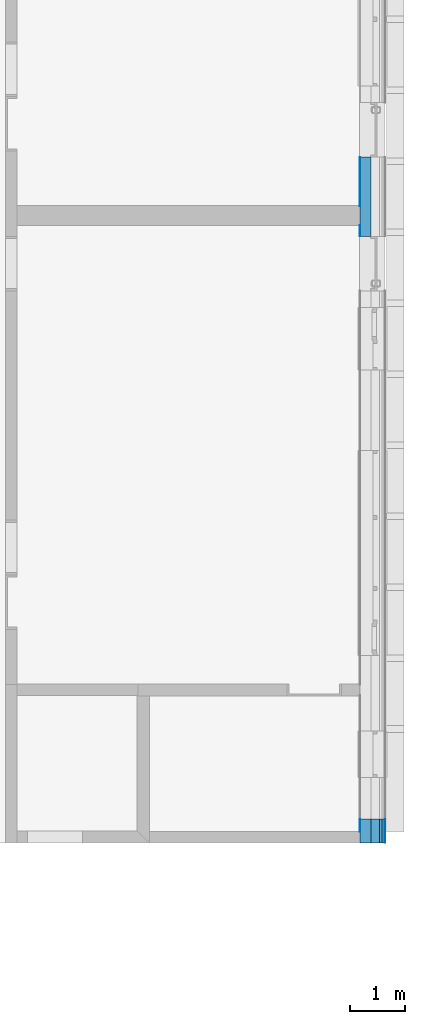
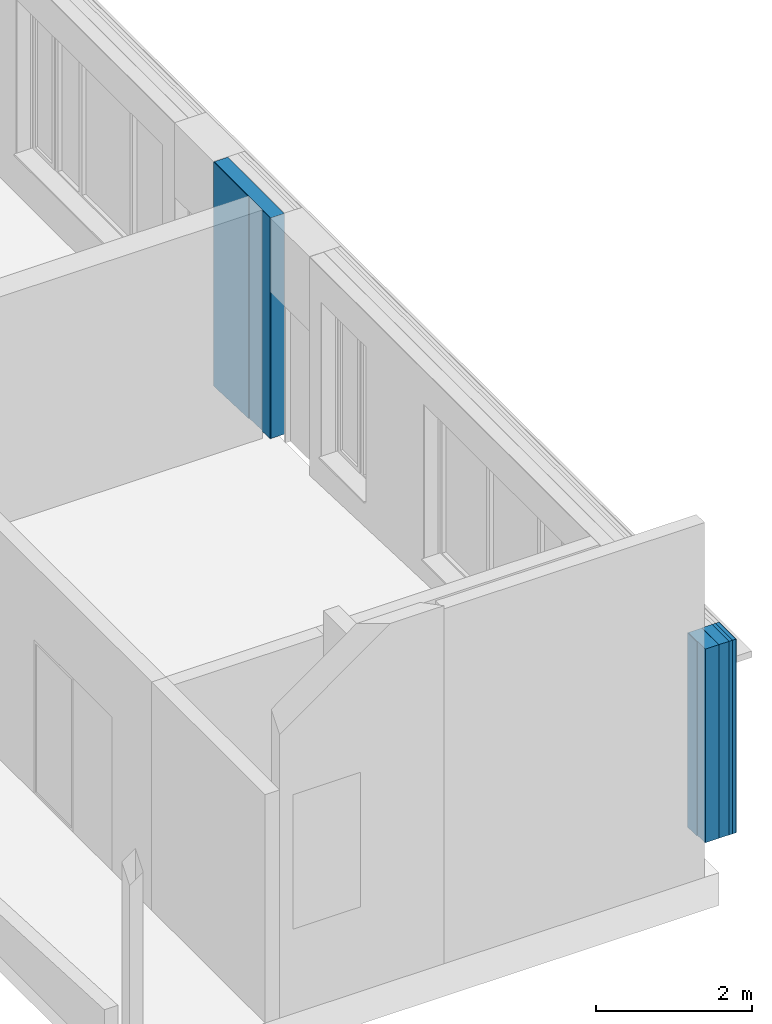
# One storey, part 36 of 65: 8 building element parts, 2 elements without a shape of their own.
"""IFC2X3 building model written with IfcOpenShell, lengths in millimetres."""

import ifcopenshell
import ifcopenshell.guid

model = None  # the IFC model being written
_history = None  # IfcOwnerHistory: only IFC2X3 demands one
_inside = {}  # id of a spatial element -> (the spatial element, [elements in it])
_under = {}  # id of a project, library or spatial element -> (it, [spatial elements below it])
_declared = {}  # id of a project -> (the project, [libraries it declares])
_typed = {}  # id of a type object -> (the type object, [elements of that type])
_made_of = {}  # id of a material, layer set ... -> (it, [elements and type objects made of it])


def new_model(schema):
    """Start an empty IFC model of exactly this schema.

    Asked for "IFC4X3", IfcOpenShell would pick the latest addendum, in which some entities
    have other attributes; the version numbers below select the first issue.
    IFC2X3 requires an IfcOwnerHistory on every rooted entity: one is made here for all.
    """
    global model, _history
    if schema == "IFC4X3":
        model = ifcopenshell.file(schema_version=(4, 3, 0, 0))
    else:
        model = ifcopenshell.file(schema=schema)
    _inside.clear()
    _under.clear()
    _declared.clear()
    _typed.clear()
    _made_of.clear()
    _history = None
    if model.schema == "IFC2X3":
        org = make("IfcOrganization", Name="unknown")
        user = make(
            "IfcPersonAndOrganization",
            ThePerson=make("IfcPerson", FamilyName="unknown"),
            TheOrganization=org,
        )
        app = make(
            "IfcApplication",
            ApplicationDeveloper=org,
            Version="unknown",
            ApplicationFullName="unknown",
            ApplicationIdentifier="unknown",
        )
        _history = make(
            "IfcOwnerHistory",
            OwningUser=user,
            OwningApplication=app,
            ChangeAction="ADDED",
            CreationDate=0,
        )
    return model


def make(cls, **values):
    """One entity of the class cls with the attributes given. An attribute that is None is left unset."""
    return model.create_entity(
        cls, **{name: value for name, value in values.items() if value is not None}
    )


def entity(cls, *values):
    """Any entity or typed value of the class cls, its attributes in the order of the schema. None: left unset."""
    e = model.create_entity(cls)
    for i, value in enumerate(values):
        if value is not None:
            e[i] = value
    return e


def rooted(cls, **values):
    """An entity with a GlobalId (a new one), such as an element, a storey or a relation."""
    return make(cls, GlobalId=ifcopenshell.guid.new(), OwnerHistory=_history, **values)


def si_unit(unit_type, name, prefix=None):
    """IfcSIUnit, for example si_unit("LENGTHUNIT", "METRE", prefix="MILLI")."""
    return make("IfcSIUnit", UnitType=unit_type, Prefix=prefix, Name=name)


def converted_unit(unit_type, name, factor, base, dimensions=None, offset=None):
    """IfcConversionBasedUnit, such as the inch: factor (a typed value) times the base unit."""
    return make(
        "IfcConversionBasedUnit"
        if offset is None
        else "IfcConversionBasedUnitWithOffset",
        ConversionOffset=offset,
        Dimensions=None
        if dimensions is None
        else entity("IfcDimensionalExponents", *dimensions),
        UnitType=unit_type,
        Name=name,
        ConversionFactor=make(
            "IfcMeasureWithUnit", ValueComponent=factor, UnitComponent=base
        ),
    )


def derived_unit(unit_type, elements):
    """IfcDerivedUnit: a product of units, each with its exponent."""
    return make(
        "IfcDerivedUnit",
        Elements=[
            make("IfcDerivedUnitElement", Unit=unit, Exponent=power)
            for unit, power in elements
        ],
        UnitType=unit_type,
    )


def money_unit(currency):
    """IfcMonetaryUnit."""
    return make("IfcMonetaryUnit", Currency=currency)


def assignment(units):
    """IfcUnitAssignment: the units of a project."""
    return None if units is None else make("IfcUnitAssignment", Units=units)


def point(xyz):
    """IfcCartesianPoint."""
    return None if xyz is None else make("IfcCartesianPoint", Coordinates=xyz)


def direction(xyz):
    """IfcDirection."""
    return None if xyz is None else make("IfcDirection", DirectionRatios=xyz)


def frame(location, z_axis=None, x_axis=None):
    """IfcAxis2Placement3D, a coordinate frame: its origin and axes. An axis left out is left unset."""
    return make(
        "IfcAxis2Placement3D",
        Location=point(location),
        Axis=direction(z_axis),
        RefDirection=direction(x_axis),
    )


def origin_with_axes():
    """The frame at (0, 0, 0) with the z axis (0, 0, 1) and the x axis (1, 0, 0) written out."""
    return frame((0.0, 0.0, 0.0), z_axis=(0.0, 0.0, 1.0), x_axis=(1.0, 0.0, 0.0))


def place(relative_to, where):
    """IfcLocalPlacement: puts the frame where relative to a parent placement (None: the world)."""
    return make(
        "IfcLocalPlacement", PlacementRelTo=relative_to, RelativePlacement=where
    )


def context(
    kind, dimensions, precision=None, world=None, true_north=None, identifier=None
):
    """IfcGeometricRepresentationContext, for example the 3D "Model" context."""
    return make(
        "IfcGeometricRepresentationContext",
        ContextIdentifier=identifier,
        ContextType=kind,
        CoordinateSpaceDimension=dimensions,
        Precision=precision,
        WorldCoordinateSystem=world,
        TrueNorth=true_north,
    )


def subcontext(parent, identifier, kind, view, scale=None):
    """IfcGeometricRepresentationSubContext, for example "Body" below "Model"."""
    return make(
        "IfcGeometricRepresentationSubContext",
        ContextIdentifier=identifier,
        ContextType=kind,
        ParentContext=parent,
        TargetScale=scale,
        TargetView=view,
    )


def project(units=None, contexts=None):
    """IfcProject with its units and contexts."""
    return rooted(
        "IfcProject",
        Name="project",
        RepresentationContexts=contexts,
        UnitsInContext=assignment(units),
    )


def spatial(cls, under=None, at=None, **own):
    """A site, building, storey or space (cls), placed at a placement, below another one or the project."""
    s = rooted(cls, ObjectPlacement=at, **own)
    if under is not None:
        _under.setdefault(under.id(), (under, []))[1].append(s)
    return s


def polyline(points):
    """IfcPolyline through the points."""
    return make("IfcPolyline", Points=[point(p) for p in points])


def outline(outer, holes=None, kind="AREA"):
    """IfcArbitraryClosedProfileDef: a profile drawn as a closed curve; with holes, ...WithVoids."""
    if holes is None:
        return make("IfcArbitraryClosedProfileDef", ProfileType=kind, OuterCurve=outer)
    return make(
        "IfcArbitraryProfileDefWithVoids",
        ProfileType=kind,
        OuterCurve=outer,
        InnerCurves=holes,
    )


def extrude(swept, where, along, depth):
    """IfcExtrudedAreaSolid: the profile swept, set in the frame where, extruded along a direction by depth."""
    return make(
        "IfcExtrudedAreaSolid",
        SweptArea=swept,
        Position=where,
        ExtrudedDirection=direction(along),
        Depth=depth,
    )


def boolean(op, a, b):
    """IfcBooleanResult of two solids."""
    return make("IfcBooleanResult", Operator=op, FirstOperand=a, SecondOperand=b)


def faces_of(points, faces, orient=None, outer=None):
    """IfcFace entities. A face is a list of loops; a loop is a list of indices into points, from 0.

    orient and outer hold one flag for each loop. By default every Orientation is true, the
    first loop of a face is its IfcFaceOuterBound and the others are IfcFaceBound.
    """
    made = []
    for i, loops in enumerate(faces):
        bounds = []
        for j, loop in enumerate(loops):
            is_outer = j == 0 if outer is None else outer[i][j]
            bounds.append(
                make(
                    "IfcFaceOuterBound" if is_outer else "IfcFaceBound",
                    Bound=make("IfcPolyLoop", Polygon=[points[k] for k in loop]),
                    Orientation=True if orient is None else orient[i][j],
                )
            )
        made.append(make("IfcFace", Bounds=bounds))
    return made


def faceted_brep(points, faces, orient=None, outer=None, voids=None):
    """IfcFacetedBrep: a solid bounded by flat faces; with voids (closed shells), ...WithVoids."""
    shared = [point(p) for p in points]
    hull = make("IfcClosedShell", CfsFaces=faces_of(shared, faces, orient, outer))
    if voids is None:
        return make("IfcFacetedBrep", Outer=hull)
    return make(
        "IfcFacetedBrepWithVoids",
        Outer=hull,
        Voids=[
            make(cls, CfsFaces=faces_of(shared, fs, o, b)) for cls, fs, o, b in voids
        ],
    )


def shape(context_of_items, identifier, shape_type, items):
    """IfcShapeRepresentation: the items that make up one representation, for example the "Body"."""
    return make(
        "IfcShapeRepresentation",
        ContextOfItems=context_of_items,
        RepresentationIdentifier=identifier,
        RepresentationType=shape_type,
        Items=items,
    )


def material(Name=None, Category=None):
    """IfcMaterial."""
    return make("IfcMaterial", Name=Name, Category=Category)


def made_of(thing, what):
    """Note that an element or type object is made of a material, layer set ...; save() writes the relation."""
    if what is not None:
        _made_of.setdefault(what.id(), (what, []))[1].append(thing)
    return thing


def type_object(cls, material=None, **own):
    """A type object (cls), such as IfcWallType, which elements share."""
    return made_of(rooted(cls, **own), material)


def element(
    cls,
    number,
    at=None,
    inside=None,
    cuts=None,
    type_object=None,
    material=None,
    context=None,
    identifier="Body",
    shape_type=None,
    held_by="IfcProductDefinitionShape",
    body=None,
    shapes=None,
    **own,
):
    """One element of the class cls, such as IfcWall. Its Tag is "e" and its number.

    at: its placement. inside: the storey or other place that contains it. cuts: it is an
    opening in that element (IfcRelVoidsElement). A single representation is given by context,
    identifier, shape_type and body (its items); several are given by shapes. held_by: the class
    of the entity that holds the representations. save() writes the other relations.
    """
    e = rooted(cls, Tag="e%d" % number, ObjectPlacement=at, **own)
    if body is not None:
        shapes = [shape(context, identifier, shape_type, body)]
    if shapes is not None:
        e.Representation = make(held_by, Representations=shapes)
    if inside is not None:
        _inside.setdefault(inside.id(), (inside, []))[1].append(e)
    if cuts is not None:
        rooted(
            "IfcRelVoidsElement", RelatingBuildingElement=cuts, RelatedOpeningElement=e
        )
    if type_object is not None:
        _typed.setdefault(type_object.id(), (type_object, []))[1].append(e)
    return made_of(e, material)


def aggregate(whole, parts):
    """IfcRelAggregates: a whole, such as a stair, and the parts it consists of."""
    return rooted("IfcRelAggregates", RelatingObject=whole, RelatedObjects=parts)


def save(model, path):
    """Write the relations noted so far, then the file.

    IfcRelAggregates (storeys below a building ...), IfcRelContainedInSpatialStructure (elements
    in a storey), IfcRelDefinesByType, IfcRelAssociatesMaterial and IfcRelDeclares: one each for
    every whole, place, type object, material and project.
    """
    for whole, parts in _under.values():
        aggregate(whole, parts)
    for where, things in _inside.values():
        rooted(
            "IfcRelContainedInSpatialStructure",
            RelatedElements=things,
            RelatingStructure=where,
        )
    for kind, things in _typed.values():
        rooted("IfcRelDefinesByType", RelatedObjects=things, RelatingType=kind)
    for what, things in _made_of.values():
        rooted("IfcRelAssociatesMaterial", RelatedObjects=things, RelatingMaterial=what)
    for by, libraries in _declared.values():
        rooted("IfcRelDeclares", RelatingContext=by, RelatedDefinitions=libraries)
    model.write(path)


model = new_model("IFC2X3")

# Units and contexts
model_context = context("Model", 3, precision=0.01, world=origin_with_axes(), true_north=direction((0.0, 1.0)))
body_context = subcontext(model_context, "Body", "Model", "MODEL_VIEW")
ifc_project = project(units=[si_unit("LENGTHUNIT", "METRE", prefix="MILLI"), si_unit("AREAUNIT", "SQUARE_METRE"), si_unit("VOLUMEUNIT", "CUBIC_METRE"), converted_unit("PLANEANGLEUNIT", "DEGREE", entity("IfcPlaneAngleMeasure", 0.0174532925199), si_unit("PLANEANGLEUNIT", "RADIAN"), dimensions=[0, 0, 0, 0, 0, 0, 0]), si_unit("SOLIDANGLEUNIT", "STERADIAN"), money_unit("EUR"), converted_unit("TIMEUNIT", "Year", entity("IfcTimeMeasure", 31556926.0), si_unit("TIMEUNIT", "SECOND"), dimensions=[0, 0, 1, 0, 0, 0, 0]), si_unit("MASSUNIT", "GRAM", prefix="KILO"), si_unit("THERMODYNAMICTEMPERATUREUNIT", "DEGREE_CELSIUS"), si_unit("LUMINOUSINTENSITYUNIT", "LUMEN"), si_unit("ENERGYUNIT", "JOULE", prefix="MEGA"), derived_unit("THERMALCONDUCTANCEUNIT", [(si_unit("POWERUNIT", "WATT"), 1), (si_unit("LENGTHUNIT", "METRE"), -1), (si_unit("THERMODYNAMICTEMPERATUREUNIT", "KELVIN"), -1)]), derived_unit("SPECIFICHEATCAPACITYUNIT", [(si_unit("ENERGYUNIT", "JOULE"), 1), (si_unit("MASSUNIT", "GRAM", prefix="KILO"), -1), (si_unit("THERMODYNAMICTEMPERATUREUNIT", "KELVIN"), -1)]), derived_unit("MASSDENSITYUNIT", [(si_unit("MASSUNIT", "GRAM", prefix="KILO"), 1), (si_unit("VOLUMEUNIT", "CUBIC_METRE"), -1)])], contexts=[model_context])

# Site, building, storey
site_placement = place(None, origin_with_axes())
site = spatial("IfcSite", under=ifc_project, at=site_placement, Name="Puškini 31, Narva", CompositionType="ELEMENT")
building_placement = place(site_placement, origin_with_axes())
building = spatial("IfcBuilding", under=site, at=building_placement, Name="Narva Riigigümnaasium", CompositionType="ELEMENT")
storey_placement = place(building_placement, frame((0.0, 0.0, -1320.0), z_axis=(0.0, 0.0, 1.0), x_axis=(1.0, 0.0, 0.0)))
storey = spatial("IfcBuildingStorey", under=building, at=storey_placement, Name="1.korrus -1.32", CompositionType="ELEMENT", Elevation=-1320.0)

# Wall, building element parts
wall_type = type_object("IfcWallType", Name="G-VS-01 468", PredefinedType="NOTDEFINED")
wall_1_placement = place(storey_placement, frame((54000.000001, 171560.151272, -1980.0), z_axis=(0.0, 0.0, 1.0), x_axis=(0.0, -1.0, 0.0)))
wall_1 = element("IfcWall", 1, at=wall_1_placement, inside=storey, type_object=wall_type, Name="Välissein")
ifc_material_1 = material(Name="Salto-siseviimistlus-seinad")
building_element_part_1_placement = place(wall_1_placement, origin_with_axes())
building_element_part_1 = element("IfcBuildingElementPart", 2, at=building_element_part_1_placement, material=ifc_material_1, Name="Salto-siseviimistlus-seinad", context=body_context, shape_type="CSG", body=[
    boolean("DIFFERENCE", boolean("DIFFERENCE", boolean("DIFFERENCE", boolean("DIFFERENCE", boolean("DIFFERENCE", boolean("DIFFERENCE", boolean("DIFFERENCE", extrude(outline(polyline([(0.0, -10.0), (1450.0, -10.0), (1450.0, 0.0), (0.0, 0.0), (0.0, -10.0)])), origin_with_axes(), (0.0, 0.0, 1.0), 5539.82248474), faceted_brep([(900.151287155, 0.0, 2070.15306783), (900.151287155, 0.0, 5535.0), (0.0, 0.0, 5535.0), (0.0, 0.0, 5539.82248474), (1450.0, 0.0, 5539.82248474), (1450.0, 0.0, 5535.0), (1245.15128715, 0.0, 5535.0), (1245.15128715, 0.0, 2083.35957896), (1450.0, 0.0, 2091.20113492), (1450.0, 0.0, 0.0), (0.0, 0.0, 0.0), (0.0, 0.0, 2035.69550845), (900.151287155, -10.0, 2070.15306783), (900.151287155, -10.0, 5535.0), (0.0, -10.0, 5535.0), (0.0, -10.0, 5539.82248474), (1450.0, -10.0, 5539.82248474), (1450.0, -10.0, 5535.0), (1245.15128715, -10.0, 5535.0), (1245.15128715, -10.0, 2083.35957896), (1450.0, -10.0, 2091.20113492), (1450.0, -10.0, 0.0), (0.0, -10.0, 0.0), (0.0, -10.0, 2035.69550845)], [[[0, 1, 2, 3, 4, 5, 6, 7, 8, 9, 10, 11]], [[1, 0, 12, 13]], [[14, 2, 1, 13]], [[2, 14, 15, 3]], [[3, 15, 16, 4]], [[17, 5, 4, 16]], [[5, 17, 18, 6]], [[7, 6, 18, 19]], [[8, 7, 19, 20]], [[8, 20, 21, 9]], [[21, 22, 10, 9]], [[23, 11, 10, 22]], [[0, 11, 23, 12]], [[12, 23, 22, 21, 20, 19, 18, 17, 16, 15, 14, 13]]])), faceted_brep([(0.0, 0.0, 2035.69550845), (0.0, 199.99999771, 2035.69550845), (0.0, 200.0, 0.0), (0.0, 0.0, 0.0), (1450.0, 199.999997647, 2091.20113492), (900.151287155, 0.0, 2070.15306783), (1245.15128715, 0.0, 2083.35957896), (1450.0, 0.0, 2091.20113492), (1450.0, 200.0, 0.0), (1450.0, 0.0, 0.0)], [[[0, 1, 2, 3]], [[4, 1, 0, 5, 6, 7]], [[1, 4, 8, 2]], [[9, 3, 2, 8]], [[5, 0, 3, 9, 7, 6]], [[4, 7, 9, 8]]])), faceted_brep([(1450.0, 199.999993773, 5535.0), (0.0, 199.999993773, 5535.0), (0.0, 200.0, 5539.82248474), (1450.0, 200.0, 5539.82248474), (0.0, 0.0, 5535.0), (1450.0, 0.0, 5535.0), (0.0, 0.0, 5539.82248474), (1450.0, 0.0, 5539.82248474)], [[[0, 1, 2, 3]], [[4, 1, 0, 5]], [[1, 4, 6, 2]], [[2, 6, 7, 3]], [[5, 0, 3, 7]], [[5, 7, 6, 4]]])), faceted_brep([(0.0, 199.99999771, 2035.69550845), (0.0, 350.0, 2035.69550845), (0.0, 350.0, 0.0), (0.0, 200.0, 0.0), (1450.0, 350.0, 2091.20113492), (1450.0, 199.999997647, 2091.20113492), (1450.0, 350.0, 0.0), (1450.0, 200.0, 0.0)], [[[0, 1, 2, 3]], [[4, 1, 0, 5]], [[1, 4, 6, 2]], [[7, 3, 2, 6]], [[5, 0, 3, 7]], [[4, 5, 7, 6]]])), faceted_brep([(0.0, 350.0, 2035.69550845), (0.0, 400.0, 2035.69550845), (0.0, 400.0, 0.0), (0.0, 350.0, 0.0), (1450.0, 400.0, 2091.20113492), (1450.0, 350.0, 2091.20113492), (1450.0, 400.0, 0.0), (1450.0, 350.0, 0.0)], [[[0, 1, 2, 3]], [[4, 1, 0, 5]], [[1, 4, 6, 2]], [[7, 3, 2, 6]], [[5, 0, 3, 7]], [[4, 5, 7, 6]]])), faceted_brep([(0.0, 400.0, 2035.69550845), (0.0, 450.0, 2035.69550845), (0.0, 450.0, 0.0), (0.0, 400.0, 0.0), (1450.0, 450.0, 2091.20113492), (1450.0, 400.0, 2091.20113492), (1450.0, 450.0, 0.0), (1450.0, 400.0, 0.0)], [[[0, 1, 2, 3]], [[4, 1, 0, 5]], [[1, 4, 6, 2]], [[7, 3, 2, 6]], [[5, 0, 3, 7]], [[4, 5, 7, 6]]])), faceted_brep([(0.0, 450.0, 2035.69550845), (0.0, 458.0, 2035.69550845), (0.0, 458.0, 0.0), (0.0, 450.0, 0.0), (1450.0, 458.0, 2091.20113492), (1450.0, 450.0, 2091.20113492), (1450.0, 458.0, 0.0), (1450.0, 450.0, 0.0)], [[[0, 1, 2, 3]], [[4, 1, 0, 5]], [[1, 4, 6, 2]], [[7, 3, 2, 6]], [[5, 0, 3, 7]], [[4, 5, 7, 6]]])),
])
ifc_material_2 = material(Name="Betoon element")
building_element_part_2_placement = place(wall_1_placement, origin_with_axes())
building_element_part_2 = element("IfcBuildingElementPart", 3, at=building_element_part_2_placement, material=ifc_material_2, Name="Betoon element", context=body_context, shape_type="CSG", body=[
    boolean("DIFFERENCE", boolean("DIFFERENCE", boolean("DIFFERENCE", boolean("DIFFERENCE", boolean("DIFFERENCE", boolean("DIFFERENCE", boolean("DIFFERENCE", extrude(outline(polyline([(0.0, 0.0), (1450.0, 0.0), (1450.0, 200.0), (0.0, 200.0), (0.0, 0.0)])), origin_with_axes(), (0.0, 0.0, 1.0), 5539.82248474), faceted_brep([(900.151287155, 0.0, 2070.15306783), (900.151287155, 0.0, 5535.0), (0.0, 0.0, 5535.0), (0.0, 0.0, 5539.82248474), (1450.0, 0.0, 5539.82248474), (1450.0, 0.0, 5535.0), (1245.15128715, 0.0, 5535.0), (1245.15128715, 0.0, 2083.35957896), (1450.0, 0.0, 2091.20113492), (1450.0, 0.0, 0.0), (0.0, 0.0, 0.0), (0.0, 0.0, 2035.69550845), (900.151287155, -10.0, 2070.15306783), (900.151287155, -10.0, 5535.0), (0.0, -10.0, 5535.0), (0.0, -10.0, 5539.82248474), (1450.0, -10.0, 5539.82248474), (1450.0, -10.0, 5535.0), (1245.15128715, -10.0, 5535.0), (1245.15128715, -10.0, 2083.35957896), (1450.0, -10.0, 2091.20113492), (1450.0, -10.0, 0.0), (0.0, -10.0, 0.0), (0.0, -10.0, 2035.69550845)], [[[0, 1, 2, 3, 4, 5, 6, 7, 8, 9, 10, 11]], [[1, 0, 12, 13]], [[14, 2, 1, 13]], [[2, 14, 15, 3]], [[3, 15, 16, 4]], [[17, 5, 4, 16]], [[5, 17, 18, 6]], [[7, 6, 18, 19]], [[8, 7, 19, 20]], [[8, 20, 21, 9]], [[21, 22, 10, 9]], [[23, 11, 10, 22]], [[0, 11, 23, 12]], [[12, 23, 22, 21, 20, 19, 18, 17, 16, 15, 14, 13]]])), faceted_brep([(0.0, 0.0, 2035.69550845), (0.0, 199.99999771, 2035.69550845), (0.0, 200.0, 0.0), (0.0, 0.0, 0.0), (1450.0, 199.999997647, 2091.20113492), (900.151287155, 0.0, 2070.15306783), (1245.15128715, 0.0, 2083.35957896), (1450.0, 0.0, 2091.20113492), (1450.0, 200.0, 0.0), (1450.0, 0.0, 0.0)], [[[0, 1, 2, 3]], [[4, 1, 0, 5, 6, 7]], [[1, 4, 8, 2]], [[9, 3, 2, 8]], [[5, 0, 3, 9, 7, 6]], [[4, 7, 9, 8]]])), faceted_brep([(1450.0, 199.999993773, 5535.0), (0.0, 199.999993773, 5535.0), (0.0, 200.0, 5539.82248474), (1450.0, 200.0, 5539.82248474), (0.0, 0.0, 5535.0), (1450.0, 0.0, 5535.0), (0.0, 0.0, 5539.82248474), (1450.0, 0.0, 5539.82248474)], [[[0, 1, 2, 3]], [[4, 1, 0, 5]], [[1, 4, 6, 2]], [[2, 6, 7, 3]], [[5, 0, 3, 7]], [[5, 7, 6, 4]]])), faceted_brep([(0.0, 199.99999771, 2035.69550845), (0.0, 350.0, 2035.69550845), (0.0, 350.0, 0.0), (0.0, 200.0, 0.0), (1450.0, 350.0, 2091.20113492), (1450.0, 199.999997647, 2091.20113492), (1450.0, 350.0, 0.0), (1450.0, 200.0, 0.0)], [[[0, 1, 2, 3]], [[4, 1, 0, 5]], [[1, 4, 6, 2]], [[7, 3, 2, 6]], [[5, 0, 3, 7]], [[4, 5, 7, 6]]])), faceted_brep([(0.0, 350.0, 2035.69550845), (0.0, 400.0, 2035.69550845), (0.0, 400.0, 0.0), (0.0, 350.0, 0.0), (1450.0, 400.0, 2091.20113492), (1450.0, 350.0, 2091.20113492), (1450.0, 400.0, 0.0), (1450.0, 350.0, 0.0)], [[[0, 1, 2, 3]], [[4, 1, 0, 5]], [[1, 4, 6, 2]], [[7, 3, 2, 6]], [[5, 0, 3, 7]], [[4, 5, 7, 6]]])), faceted_brep([(0.0, 400.0, 2035.69550845), (0.0, 450.0, 2035.69550845), (0.0, 450.0, 0.0), (0.0, 400.0, 0.0), (1450.0, 450.0, 2091.20113492), (1450.0, 400.0, 2091.20113492), (1450.0, 450.0, 0.0), (1450.0, 400.0, 0.0)], [[[0, 1, 2, 3]], [[4, 1, 0, 5]], [[1, 4, 6, 2]], [[7, 3, 2, 6]], [[5, 0, 3, 7]], [[4, 5, 7, 6]]])), faceted_brep([(0.0, 450.0, 2035.69550845), (0.0, 458.0, 2035.69550845), (0.0, 458.0, 0.0), (0.0, 450.0, 0.0), (1450.0, 458.0, 2091.20113492), (1450.0, 450.0, 2091.20113492), (1450.0, 458.0, 0.0), (1450.0, 450.0, 0.0)], [[[0, 1, 2, 3]], [[4, 1, 0, 5]], [[1, 4, 6, 2]], [[7, 3, 2, 6]], [[5, 0, 3, 7]], [[4, 5, 7, 6]]])),
])
aggregate(wall_1, [building_element_part_1, building_element_part_2])

wall_2_placement = place(storey_placement, frame((54000.000001, 159436.567147, -1980.0), z_axis=(0.0, 0.0, 1.0), x_axis=(0.0, -1.0, 0.0)))
wall_2 = element("IfcWall", 4, at=wall_2_placement, inside=storey, type_object=wall_type, Name="Välissein")
building_element_part_3_placement = place(wall_2_placement, origin_with_axes())
building_element_part_3 = element("IfcBuildingElementPart", 5, at=building_element_part_3_placement, material=ifc_material_1, Name="Salto-siseviimistlus-seinad", context=body_context, shape_type="CSG", body=[
    boolean("DIFFERENCE", boolean("DIFFERENCE", boolean("DIFFERENCE", boolean("DIFFERENCE", boolean("DIFFERENCE", boolean("DIFFERENCE", boolean("DIFFERENCE", extrude(outline(polyline([(0.0, -10.0), (436.567147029, -10.0), (436.567147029, 0.0), (0.0, 0.0), (0.0, -10.0)])), origin_with_axes(), (0.0, 0.0, 1.0), 5539.82248474), faceted_brep([(236.567146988, 0.0, 2508.8389151), (236.567146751, 0.0, 5535.0), (0.0, 0.0, 5535.0), (0.0, 0.0, 5539.82248474), (436.567147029, 0.0, 5539.82248474), (436.567147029, 0.0, 0.0), (0.0, 0.0, 0.0), (0.0, 0.0, 2499.78318565), (236.567146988, -10.0, 2508.8389151), (236.567146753, -10.0, 5535.0), (0.0, -10.0, 5535.0), (0.0, -10.0, 5539.82248474), (436.567147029, -10.0, 5539.82248474), (436.567147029, -10.0, 0.0), (0.0, -10.0, 0.0), (0.0, -10.0, 2499.78318565)], [[[0, 1, 2, 3, 4, 5, 6, 7]], [[1, 0, 8, 9]], [[10, 2, 1, 9]], [[2, 10, 11, 3]], [[3, 11, 12, 4]], [[12, 13, 5, 4]], [[13, 14, 6, 5]], [[15, 7, 6, 14]], [[0, 7, 15, 8]], [[8, 15, 14, 13, 12, 11, 10, 9]]])), faceted_brep([(0.0, 0.0, 2499.78318565), (0.0, 199.999997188, 2499.78318565), (0.0, 200.0, 0.0), (0.0, 0.0, 0.0), (436.567147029, 200.0, 2516.49486358), (236.567146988, 0.0, 2508.8389151), (436.56714655, 0.0, 2516.49486356), (436.567147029, 200.0, 0.0), (436.567147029, 0.0, 0.0)], [[[0, 1, 2, 3]], [[4, 1, 0, 5, 6]], [[1, 4, 7, 2]], [[8, 3, 2, 7]], [[5, 0, 3, 8, 6]], [[4, 6, 8, 7]]])), faceted_brep([(236.567146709, 199.999993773, 5539.82248474), (236.567146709, 199.999993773, 5535.0), (0.0, 199.999993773, 5535.0), (0.0, 200.0, 5539.82248474), (236.567146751, 0.0, 5539.82248474), (236.567146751, 0.0, 5535.0), (0.0, 0.0, 5535.0), (0.0, 0.0, 5539.82248474)], [[[0, 1, 2, 3]], [[1, 0, 4, 5]], [[6, 2, 1, 5]], [[2, 6, 7, 3]], [[4, 0, 3, 7]], [[5, 4, 7, 6]]])), faceted_brep([(0.0, 199.999997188, 2499.78318565), (0.0, 350.0, 2499.78318565), (0.0, 350.0, 0.0), (0.0, 200.0, 0.0), (436.567147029, 350.0, 2516.49486358), (436.567147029, 200.0, 2516.49486358), (436.567147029, 350.0, 0.0), (436.567147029, 200.0, 0.0)], [[[0, 1, 2, 3]], [[4, 1, 0, 5]], [[1, 4, 6, 2]], [[7, 3, 2, 6]], [[5, 0, 3, 7]], [[4, 5, 7, 6]]])), faceted_brep([(0.0, 350.0, 2499.78318565), (0.0, 400.0, 2499.78318565), (0.0, 400.0, 0.0), (0.0, 350.0, 0.0), (436.567147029, 400.0, 2516.49486358), (436.567147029, 350.0, 2516.49486358), (436.567147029, 400.0, 0.0), (436.567147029, 350.0, 0.0)], [[[0, 1, 2, 3]], [[4, 1, 0, 5]], [[1, 4, 6, 2]], [[7, 3, 2, 6]], [[5, 0, 3, 7]], [[4, 5, 7, 6]]])), faceted_brep([(0.0, 400.0, 2499.78318565), (0.0, 450.0, 2499.78318565), (0.0, 450.0, 0.0), (0.0, 400.0, 0.0), (436.567147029, 450.0, 2516.49486358), (436.567147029, 400.0, 2516.49486358), (436.567147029, 450.0, 0.0), (436.567147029, 400.0, 0.0)], [[[0, 1, 2, 3]], [[4, 1, 0, 5]], [[1, 4, 6, 2]], [[7, 3, 2, 6]], [[5, 0, 3, 7]], [[4, 5, 7, 6]]])), faceted_brep([(0.0, 450.0, 2499.78318565), (0.0, 458.0, 2499.78318565), (0.0, 458.0, 0.0), (0.0, 450.0, 0.0), (436.567147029, 458.0, 2516.49486358), (436.567147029, 450.0, 2516.49486358), (436.567147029, 458.0, 0.0), (436.567147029, 450.0, 0.0)], [[[0, 1, 2, 3]], [[4, 1, 0, 5]], [[1, 4, 6, 2]], [[7, 3, 2, 6]], [[5, 0, 3, 7]], [[4, 5, 7, 6]]])),
])
building_element_part_4_placement = place(wall_2_placement, origin_with_axes())
building_element_part_4 = element("IfcBuildingElementPart", 6, at=building_element_part_4_placement, material=ifc_material_2, Name="Betoon element", context=body_context, shape_type="CSG", body=[
    boolean("DIFFERENCE", boolean("DIFFERENCE", boolean("DIFFERENCE", boolean("DIFFERENCE", boolean("DIFFERENCE", boolean("DIFFERENCE", boolean("DIFFERENCE", extrude(outline(polyline([(0.0, 0.0), (436.567147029, 0.0), (436.567147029, 200.0), (0.0, 200.0), (0.0, 0.0)])), origin_with_axes(), (0.0, 0.0, 1.0), 5539.82248474), faceted_brep([(236.567146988, 0.0, 2508.8389151), (236.567146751, 0.0, 5535.0), (0.0, 0.0, 5535.0), (0.0, 0.0, 5539.82248474), (436.567147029, 0.0, 5539.82248474), (436.567147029, 0.0, 0.0), (0.0, 0.0, 0.0), (0.0, 0.0, 2499.78318565), (236.567146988, -10.0, 2508.8389151), (236.567146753, -10.0, 5535.0), (0.0, -10.0, 5535.0), (0.0, -10.0, 5539.82248474), (436.567147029, -10.0, 5539.82248474), (436.567147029, -10.0, 0.0), (0.0, -10.0, 0.0), (0.0, -10.0, 2499.78318565)], [[[0, 1, 2, 3, 4, 5, 6, 7]], [[1, 0, 8, 9]], [[10, 2, 1, 9]], [[2, 10, 11, 3]], [[3, 11, 12, 4]], [[12, 13, 5, 4]], [[13, 14, 6, 5]], [[15, 7, 6, 14]], [[0, 7, 15, 8]], [[8, 15, 14, 13, 12, 11, 10, 9]]])), faceted_brep([(0.0, 0.0, 2499.78318565), (0.0, 199.999997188, 2499.78318565), (0.0, 200.0, 0.0), (0.0, 0.0, 0.0), (436.567147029, 200.0, 2516.49486358), (236.567146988, 0.0, 2508.8389151), (436.56714655, 0.0, 2516.49486356), (436.567147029, 200.0, 0.0), (436.567147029, 0.0, 0.0)], [[[0, 1, 2, 3]], [[4, 1, 0, 5, 6]], [[1, 4, 7, 2]], [[8, 3, 2, 7]], [[5, 0, 3, 8, 6]], [[4, 6, 8, 7]]])), faceted_brep([(236.567146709, 199.999993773, 5539.82248474), (236.567146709, 199.999993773, 5535.0), (0.0, 199.999993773, 5535.0), (0.0, 200.0, 5539.82248474), (236.567146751, 0.0, 5539.82248474), (236.567146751, 0.0, 5535.0), (0.0, 0.0, 5535.0), (0.0, 0.0, 5539.82248474)], [[[0, 1, 2, 3]], [[1, 0, 4, 5]], [[6, 2, 1, 5]], [[2, 6, 7, 3]], [[4, 0, 3, 7]], [[5, 4, 7, 6]]])), faceted_brep([(0.0, 199.999997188, 2499.78318565), (0.0, 350.0, 2499.78318565), (0.0, 350.0, 0.0), (0.0, 200.0, 0.0), (436.567147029, 350.0, 2516.49486358), (436.567147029, 200.0, 2516.49486358), (436.567147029, 350.0, 0.0), (436.567147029, 200.0, 0.0)], [[[0, 1, 2, 3]], [[4, 1, 0, 5]], [[1, 4, 6, 2]], [[7, 3, 2, 6]], [[5, 0, 3, 7]], [[4, 5, 7, 6]]])), faceted_brep([(0.0, 350.0, 2499.78318565), (0.0, 400.0, 2499.78318565), (0.0, 400.0, 0.0), (0.0, 350.0, 0.0), (436.567147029, 400.0, 2516.49486358), (436.567147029, 350.0, 2516.49486358), (436.567147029, 400.0, 0.0), (436.567147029, 350.0, 0.0)], [[[0, 1, 2, 3]], [[4, 1, 0, 5]], [[1, 4, 6, 2]], [[7, 3, 2, 6]], [[5, 0, 3, 7]], [[4, 5, 7, 6]]])), faceted_brep([(0.0, 400.0, 2499.78318565), (0.0, 450.0, 2499.78318565), (0.0, 450.0, 0.0), (0.0, 400.0, 0.0), (436.567147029, 450.0, 2516.49486358), (436.567147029, 400.0, 2516.49486358), (436.567147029, 450.0, 0.0), (436.567147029, 400.0, 0.0)], [[[0, 1, 2, 3]], [[4, 1, 0, 5]], [[1, 4, 6, 2]], [[7, 3, 2, 6]], [[5, 0, 3, 7]], [[4, 5, 7, 6]]])), faceted_brep([(0.0, 450.0, 2499.78318565), (0.0, 458.0, 2499.78318565), (0.0, 458.0, 0.0), (0.0, 450.0, 0.0), (436.567147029, 458.0, 2516.49486358), (436.567147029, 450.0, 2516.49486358), (436.567147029, 458.0, 0.0), (436.567147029, 450.0, 0.0)], [[[0, 1, 2, 3]], [[4, 1, 0, 5]], [[1, 4, 6, 2]], [[7, 3, 2, 6]], [[5, 0, 3, 7]], [[4, 5, 7, 6]]])),
])
ifc_material_3 = material(Name="Salto-PIR soojustus")
building_element_part_5_placement = place(wall_2_placement, origin_with_axes())
building_element_part_5 = element("IfcBuildingElementPart", 7, at=building_element_part_5_placement, material=ifc_material_3, Name="Salto-PIR soojustus", context=body_context, shape_type="CSG", body=[
    boolean("DIFFERENCE", boolean("DIFFERENCE", boolean("DIFFERENCE", boolean("DIFFERENCE", boolean("DIFFERENCE", boolean("DIFFERENCE", boolean("DIFFERENCE", extrude(outline(polyline([(0.0, 200.0), (436.567147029, 200.0), (436.567147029, 350.0), (0.0, 350.0), (0.0, 200.0)])), origin_with_axes(), (0.0, 0.0, 1.0), 5539.82248474), faceted_brep([(236.567146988, 0.0, 2508.8389151), (236.567146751, 0.0, 5535.0), (0.0, 0.0, 5535.0), (0.0, 0.0, 5539.82248474), (436.567147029, 0.0, 5539.82248474), (436.567147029, 0.0, 0.0), (0.0, 0.0, 0.0), (0.0, 0.0, 2499.78318565), (236.567146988, -10.0, 2508.8389151), (236.567146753, -10.0, 5535.0), (0.0, -10.0, 5535.0), (0.0, -10.0, 5539.82248474), (436.567147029, -10.0, 5539.82248474), (436.567147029, -10.0, 0.0), (0.0, -10.0, 0.0), (0.0, -10.0, 2499.78318565)], [[[0, 1, 2, 3, 4, 5, 6, 7]], [[1, 0, 8, 9]], [[10, 2, 1, 9]], [[2, 10, 11, 3]], [[3, 11, 12, 4]], [[12, 13, 5, 4]], [[13, 14, 6, 5]], [[15, 7, 6, 14]], [[0, 7, 15, 8]], [[8, 15, 14, 13, 12, 11, 10, 9]]])), faceted_brep([(0.0, 0.0, 2499.78318565), (0.0, 199.999997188, 2499.78318565), (0.0, 200.0, 0.0), (0.0, 0.0, 0.0), (436.567147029, 200.0, 2516.49486358), (236.567146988, 0.0, 2508.8389151), (436.56714655, 0.0, 2516.49486356), (436.567147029, 200.0, 0.0), (436.567147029, 0.0, 0.0)], [[[0, 1, 2, 3]], [[4, 1, 0, 5, 6]], [[1, 4, 7, 2]], [[8, 3, 2, 7]], [[5, 0, 3, 8, 6]], [[4, 6, 8, 7]]])), faceted_brep([(236.567146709, 199.999993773, 5539.82248474), (236.567146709, 199.999993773, 5535.0), (0.0, 199.999993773, 5535.0), (0.0, 200.0, 5539.82248474), (236.567146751, 0.0, 5539.82248474), (236.567146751, 0.0, 5535.0), (0.0, 0.0, 5535.0), (0.0, 0.0, 5539.82248474)], [[[0, 1, 2, 3]], [[1, 0, 4, 5]], [[6, 2, 1, 5]], [[2, 6, 7, 3]], [[4, 0, 3, 7]], [[5, 4, 7, 6]]])), faceted_brep([(0.0, 199.999997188, 2499.78318565), (0.0, 350.0, 2499.78318565), (0.0, 350.0, 0.0), (0.0, 200.0, 0.0), (436.567147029, 350.0, 2516.49486358), (436.567147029, 200.0, 2516.49486358), (436.567147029, 350.0, 0.0), (436.567147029, 200.0, 0.0)], [[[0, 1, 2, 3]], [[4, 1, 0, 5]], [[1, 4, 6, 2]], [[7, 3, 2, 6]], [[5, 0, 3, 7]], [[4, 5, 7, 6]]])), faceted_brep([(0.0, 350.0, 2499.78318565), (0.0, 400.0, 2499.78318565), (0.0, 400.0, 0.0), (0.0, 350.0, 0.0), (436.567147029, 400.0, 2516.49486358), (436.567147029, 350.0, 2516.49486358), (436.567147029, 400.0, 0.0), (436.567147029, 350.0, 0.0)], [[[0, 1, 2, 3]], [[4, 1, 0, 5]], [[1, 4, 6, 2]], [[7, 3, 2, 6]], [[5, 0, 3, 7]], [[4, 5, 7, 6]]])), faceted_brep([(0.0, 400.0, 2499.78318565), (0.0, 450.0, 2499.78318565), (0.0, 450.0, 0.0), (0.0, 400.0, 0.0), (436.567147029, 450.0, 2516.49486358), (436.567147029, 400.0, 2516.49486358), (436.567147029, 450.0, 0.0), (436.567147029, 400.0, 0.0)], [[[0, 1, 2, 3]], [[4, 1, 0, 5]], [[1, 4, 6, 2]], [[7, 3, 2, 6]], [[5, 0, 3, 7]], [[4, 5, 7, 6]]])), faceted_brep([(0.0, 450.0, 2499.78318565), (0.0, 458.0, 2499.78318565), (0.0, 458.0, 0.0), (0.0, 450.0, 0.0), (436.567147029, 458.0, 2516.49486358), (436.567147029, 450.0, 2516.49486358), (436.567147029, 458.0, 0.0), (436.567147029, 450.0, 0.0)], [[[0, 1, 2, 3]], [[4, 1, 0, 5]], [[1, 4, 6, 2]], [[7, 3, 2, 6]], [[5, 0, 3, 7]], [[4, 5, 7, 6]]])),
])
building_element_part_6_placement = place(wall_2_placement, origin_with_axes())
building_element_part_6 = element("IfcBuildingElementPart", 8, at=building_element_part_6_placement, material=ifc_material_3, Name="Salto-PIR soojustus", context=body_context, shape_type="CSG", body=[
    boolean("DIFFERENCE", boolean("DIFFERENCE", boolean("DIFFERENCE", boolean("DIFFERENCE", boolean("DIFFERENCE", boolean("DIFFERENCE", boolean("DIFFERENCE", extrude(outline(polyline([(0.0, 350.0), (436.567147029, 350.0), (436.567147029, 400.0), (0.0, 400.0), (0.0, 350.0)])), origin_with_axes(), (0.0, 0.0, 1.0), 5539.82248474), faceted_brep([(236.567146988, 0.0, 2508.8389151), (236.567146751, 0.0, 5535.0), (0.0, 0.0, 5535.0), (0.0, 0.0, 5539.82248474), (436.567147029, 0.0, 5539.82248474), (436.567147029, 0.0, 0.0), (0.0, 0.0, 0.0), (0.0, 0.0, 2499.78318565), (236.567146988, -10.0, 2508.8389151), (236.567146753, -10.0, 5535.0), (0.0, -10.0, 5535.0), (0.0, -10.0, 5539.82248474), (436.567147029, -10.0, 5539.82248474), (436.567147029, -10.0, 0.0), (0.0, -10.0, 0.0), (0.0, -10.0, 2499.78318565)], [[[0, 1, 2, 3, 4, 5, 6, 7]], [[1, 0, 8, 9]], [[10, 2, 1, 9]], [[2, 10, 11, 3]], [[3, 11, 12, 4]], [[12, 13, 5, 4]], [[13, 14, 6, 5]], [[15, 7, 6, 14]], [[0, 7, 15, 8]], [[8, 15, 14, 13, 12, 11, 10, 9]]])), faceted_brep([(0.0, 0.0, 2499.78318565), (0.0, 199.999997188, 2499.78318565), (0.0, 200.0, 0.0), (0.0, 0.0, 0.0), (436.567147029, 200.0, 2516.49486358), (236.567146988, 0.0, 2508.8389151), (436.56714655, 0.0, 2516.49486356), (436.567147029, 200.0, 0.0), (436.567147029, 0.0, 0.0)], [[[0, 1, 2, 3]], [[4, 1, 0, 5, 6]], [[1, 4, 7, 2]], [[8, 3, 2, 7]], [[5, 0, 3, 8, 6]], [[4, 6, 8, 7]]])), faceted_brep([(236.567146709, 199.999993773, 5539.82248474), (236.567146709, 199.999993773, 5535.0), (0.0, 199.999993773, 5535.0), (0.0, 200.0, 5539.82248474), (236.567146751, 0.0, 5539.82248474), (236.567146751, 0.0, 5535.0), (0.0, 0.0, 5535.0), (0.0, 0.0, 5539.82248474)], [[[0, 1, 2, 3]], [[1, 0, 4, 5]], [[6, 2, 1, 5]], [[2, 6, 7, 3]], [[4, 0, 3, 7]], [[5, 4, 7, 6]]])), faceted_brep([(0.0, 199.999997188, 2499.78318565), (0.0, 350.0, 2499.78318565), (0.0, 350.0, 0.0), (0.0, 200.0, 0.0), (436.567147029, 350.0, 2516.49486358), (436.567147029, 200.0, 2516.49486358), (436.567147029, 350.0, 0.0), (436.567147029, 200.0, 0.0)], [[[0, 1, 2, 3]], [[4, 1, 0, 5]], [[1, 4, 6, 2]], [[7, 3, 2, 6]], [[5, 0, 3, 7]], [[4, 5, 7, 6]]])), faceted_brep([(0.0, 350.0, 2499.78318565), (0.0, 400.0, 2499.78318565), (0.0, 400.0, 0.0), (0.0, 350.0, 0.0), (436.567147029, 400.0, 2516.49486358), (436.567147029, 350.0, 2516.49486358), (436.567147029, 400.0, 0.0), (436.567147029, 350.0, 0.0)], [[[0, 1, 2, 3]], [[4, 1, 0, 5]], [[1, 4, 6, 2]], [[7, 3, 2, 6]], [[5, 0, 3, 7]], [[4, 5, 7, 6]]])), faceted_brep([(0.0, 400.0, 2499.78318565), (0.0, 450.0, 2499.78318565), (0.0, 450.0, 0.0), (0.0, 400.0, 0.0), (436.567147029, 450.0, 2516.49486358), (436.567147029, 400.0, 2516.49486358), (436.567147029, 450.0, 0.0), (436.567147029, 400.0, 0.0)], [[[0, 1, 2, 3]], [[4, 1, 0, 5]], [[1, 4, 6, 2]], [[7, 3, 2, 6]], [[5, 0, 3, 7]], [[4, 5, 7, 6]]])), faceted_brep([(0.0, 450.0, 2499.78318565), (0.0, 458.0, 2499.78318565), (0.0, 458.0, 0.0), (0.0, 450.0, 0.0), (436.567147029, 458.0, 2516.49486358), (436.567147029, 450.0, 2516.49486358), (436.567147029, 458.0, 0.0), (436.567147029, 450.0, 0.0)], [[[0, 1, 2, 3]], [[4, 1, 0, 5]], [[1, 4, 6, 2]], [[7, 3, 2, 6]], [[5, 0, 3, 7]], [[4, 5, 7, 6]]])),
])
ifc_material_4 = material(Name="Salto-roovitus")
building_element_part_7_placement = place(wall_2_placement, origin_with_axes())
building_element_part_7 = element("IfcBuildingElementPart", 9, at=building_element_part_7_placement, material=ifc_material_4, Name="Salto-roovitus", context=body_context, shape_type="CSG", body=[
    boolean("DIFFERENCE", boolean("DIFFERENCE", boolean("DIFFERENCE", boolean("DIFFERENCE", boolean("DIFFERENCE", boolean("DIFFERENCE", boolean("DIFFERENCE", extrude(outline(polyline([(0.0, 400.0), (436.567147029, 400.0), (436.567147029, 450.0), (0.0, 450.0), (0.0, 400.0)])), origin_with_axes(), (0.0, 0.0, 1.0), 5539.82248474), faceted_brep([(236.567146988, 0.0, 2508.8389151), (236.567146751, 0.0, 5535.0), (0.0, 0.0, 5535.0), (0.0, 0.0, 5539.82248474), (436.567147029, 0.0, 5539.82248474), (436.567147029, 0.0, 0.0), (0.0, 0.0, 0.0), (0.0, 0.0, 2499.78318565), (236.567146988, -10.0, 2508.8389151), (236.567146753, -10.0, 5535.0), (0.0, -10.0, 5535.0), (0.0, -10.0, 5539.82248474), (436.567147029, -10.0, 5539.82248474), (436.567147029, -10.0, 0.0), (0.0, -10.0, 0.0), (0.0, -10.0, 2499.78318565)], [[[0, 1, 2, 3, 4, 5, 6, 7]], [[1, 0, 8, 9]], [[10, 2, 1, 9]], [[2, 10, 11, 3]], [[3, 11, 12, 4]], [[12, 13, 5, 4]], [[13, 14, 6, 5]], [[15, 7, 6, 14]], [[0, 7, 15, 8]], [[8, 15, 14, 13, 12, 11, 10, 9]]])), faceted_brep([(0.0, 0.0, 2499.78318565), (0.0, 199.999997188, 2499.78318565), (0.0, 200.0, 0.0), (0.0, 0.0, 0.0), (436.567147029, 200.0, 2516.49486358), (236.567146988, 0.0, 2508.8389151), (436.56714655, 0.0, 2516.49486356), (436.567147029, 200.0, 0.0), (436.567147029, 0.0, 0.0)], [[[0, 1, 2, 3]], [[4, 1, 0, 5, 6]], [[1, 4, 7, 2]], [[8, 3, 2, 7]], [[5, 0, 3, 8, 6]], [[4, 6, 8, 7]]])), faceted_brep([(236.567146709, 199.999993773, 5539.82248474), (236.567146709, 199.999993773, 5535.0), (0.0, 199.999993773, 5535.0), (0.0, 200.0, 5539.82248474), (236.567146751, 0.0, 5539.82248474), (236.567146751, 0.0, 5535.0), (0.0, 0.0, 5535.0), (0.0, 0.0, 5539.82248474)], [[[0, 1, 2, 3]], [[1, 0, 4, 5]], [[6, 2, 1, 5]], [[2, 6, 7, 3]], [[4, 0, 3, 7]], [[5, 4, 7, 6]]])), faceted_brep([(0.0, 199.999997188, 2499.78318565), (0.0, 350.0, 2499.78318565), (0.0, 350.0, 0.0), (0.0, 200.0, 0.0), (436.567147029, 350.0, 2516.49486358), (436.567147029, 200.0, 2516.49486358), (436.567147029, 350.0, 0.0), (436.567147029, 200.0, 0.0)], [[[0, 1, 2, 3]], [[4, 1, 0, 5]], [[1, 4, 6, 2]], [[7, 3, 2, 6]], [[5, 0, 3, 7]], [[4, 5, 7, 6]]])), faceted_brep([(0.0, 350.0, 2499.78318565), (0.0, 400.0, 2499.78318565), (0.0, 400.0, 0.0), (0.0, 350.0, 0.0), (436.567147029, 400.0, 2516.49486358), (436.567147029, 350.0, 2516.49486358), (436.567147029, 400.0, 0.0), (436.567147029, 350.0, 0.0)], [[[0, 1, 2, 3]], [[4, 1, 0, 5]], [[1, 4, 6, 2]], [[7, 3, 2, 6]], [[5, 0, 3, 7]], [[4, 5, 7, 6]]])), faceted_brep([(0.0, 400.0, 2499.78318565), (0.0, 450.0, 2499.78318565), (0.0, 450.0, 0.0), (0.0, 400.0, 0.0), (436.567147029, 450.0, 2516.49486358), (436.567147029, 400.0, 2516.49486358), (436.567147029, 450.0, 0.0), (436.567147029, 400.0, 0.0)], [[[0, 1, 2, 3]], [[4, 1, 0, 5]], [[1, 4, 6, 2]], [[7, 3, 2, 6]], [[5, 0, 3, 7]], [[4, 5, 7, 6]]])), faceted_brep([(0.0, 450.0, 2499.78318565), (0.0, 458.0, 2499.78318565), (0.0, 458.0, 0.0), (0.0, 450.0, 0.0), (436.567147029, 458.0, 2516.49486358), (436.567147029, 450.0, 2516.49486358), (436.567147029, 458.0, 0.0), (436.567147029, 450.0, 0.0)], [[[0, 1, 2, 3]], [[4, 1, 0, 5]], [[1, 4, 6, 2]], [[7, 3, 2, 6]], [[5, 0, 3, 7]], [[4, 5, 7, 6]]])),
])
ifc_material_5 = material(Name="fassaadiplaat")
building_element_part_8_placement = place(wall_2_placement, origin_with_axes())
building_element_part_8 = element("IfcBuildingElementPart", 10, at=building_element_part_8_placement, material=ifc_material_5, Name="fassaadiplaat", context=body_context, shape_type="CSG", body=[
    boolean("DIFFERENCE", boolean("DIFFERENCE", boolean("DIFFERENCE", boolean("DIFFERENCE", boolean("DIFFERENCE", boolean("DIFFERENCE", boolean("DIFFERENCE", extrude(outline(polyline([(0.0, 450.0), (436.567147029, 450.0), (436.567147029, 458.0), (0.0, 458.0), (0.0, 450.0)])), origin_with_axes(), (0.0, 0.0, 1.0), 5539.82248474), faceted_brep([(236.567146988, 0.0, 2508.8389151), (236.567146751, 0.0, 5535.0), (0.0, 0.0, 5535.0), (0.0, 0.0, 5539.82248474), (436.567147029, 0.0, 5539.82248474), (436.567147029, 0.0, 0.0), (0.0, 0.0, 0.0), (0.0, 0.0, 2499.78318565), (236.567146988, -10.0, 2508.8389151), (236.567146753, -10.0, 5535.0), (0.0, -10.0, 5535.0), (0.0, -10.0, 5539.82248474), (436.567147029, -10.0, 5539.82248474), (436.567147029, -10.0, 0.0), (0.0, -10.0, 0.0), (0.0, -10.0, 2499.78318565)], [[[0, 1, 2, 3, 4, 5, 6, 7]], [[1, 0, 8, 9]], [[10, 2, 1, 9]], [[2, 10, 11, 3]], [[3, 11, 12, 4]], [[12, 13, 5, 4]], [[13, 14, 6, 5]], [[15, 7, 6, 14]], [[0, 7, 15, 8]], [[8, 15, 14, 13, 12, 11, 10, 9]]])), faceted_brep([(0.0, 0.0, 2499.78318565), (0.0, 199.999997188, 2499.78318565), (0.0, 200.0, 0.0), (0.0, 0.0, 0.0), (436.567147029, 200.0, 2516.49486358), (236.567146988, 0.0, 2508.8389151), (436.56714655, 0.0, 2516.49486356), (436.567147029, 200.0, 0.0), (436.567147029, 0.0, 0.0)], [[[0, 1, 2, 3]], [[4, 1, 0, 5, 6]], [[1, 4, 7, 2]], [[8, 3, 2, 7]], [[5, 0, 3, 8, 6]], [[4, 6, 8, 7]]])), faceted_brep([(236.567146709, 199.999993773, 5539.82248474), (236.567146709, 199.999993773, 5535.0), (0.0, 199.999993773, 5535.0), (0.0, 200.0, 5539.82248474), (236.567146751, 0.0, 5539.82248474), (236.567146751, 0.0, 5535.0), (0.0, 0.0, 5535.0), (0.0, 0.0, 5539.82248474)], [[[0, 1, 2, 3]], [[1, 0, 4, 5]], [[6, 2, 1, 5]], [[2, 6, 7, 3]], [[4, 0, 3, 7]], [[5, 4, 7, 6]]])), faceted_brep([(0.0, 199.999997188, 2499.78318565), (0.0, 350.0, 2499.78318565), (0.0, 350.0, 0.0), (0.0, 200.0, 0.0), (436.567147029, 350.0, 2516.49486358), (436.567147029, 200.0, 2516.49486358), (436.567147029, 350.0, 0.0), (436.567147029, 200.0, 0.0)], [[[0, 1, 2, 3]], [[4, 1, 0, 5]], [[1, 4, 6, 2]], [[7, 3, 2, 6]], [[5, 0, 3, 7]], [[4, 5, 7, 6]]])), faceted_brep([(0.0, 350.0, 2499.78318565), (0.0, 400.0, 2499.78318565), (0.0, 400.0, 0.0), (0.0, 350.0, 0.0), (436.567147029, 400.0, 2516.49486358), (436.567147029, 350.0, 2516.49486358), (436.567147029, 400.0, 0.0), (436.567147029, 350.0, 0.0)], [[[0, 1, 2, 3]], [[4, 1, 0, 5]], [[1, 4, 6, 2]], [[7, 3, 2, 6]], [[5, 0, 3, 7]], [[4, 5, 7, 6]]])), faceted_brep([(0.0, 400.0, 2499.78318565), (0.0, 450.0, 2499.78318565), (0.0, 450.0, 0.0), (0.0, 400.0, 0.0), (436.567147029, 450.0, 2516.49486358), (436.567147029, 400.0, 2516.49486358), (436.567147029, 450.0, 0.0), (436.567147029, 400.0, 0.0)], [[[0, 1, 2, 3]], [[4, 1, 0, 5]], [[1, 4, 6, 2]], [[7, 3, 2, 6]], [[5, 0, 3, 7]], [[4, 5, 7, 6]]])), faceted_brep([(0.0, 450.0, 2499.78318565), (0.0, 458.0, 2499.78318565), (0.0, 458.0, 0.0), (0.0, 450.0, 0.0), (436.567147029, 458.0, 2516.49486358), (436.567147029, 450.0, 2516.49486358), (436.567147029, 458.0, 0.0), (436.567147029, 450.0, 0.0)], [[[0, 1, 2, 3]], [[4, 1, 0, 5]], [[1, 4, 6, 2]], [[7, 3, 2, 6]], [[5, 0, 3, 7]], [[4, 5, 7, 6]]])),
])
aggregate(wall_2, [building_element_part_3, building_element_part_4, building_element_part_5, building_element_part_6, building_element_part_7, building_element_part_8])

save(model, "model.ifc")
